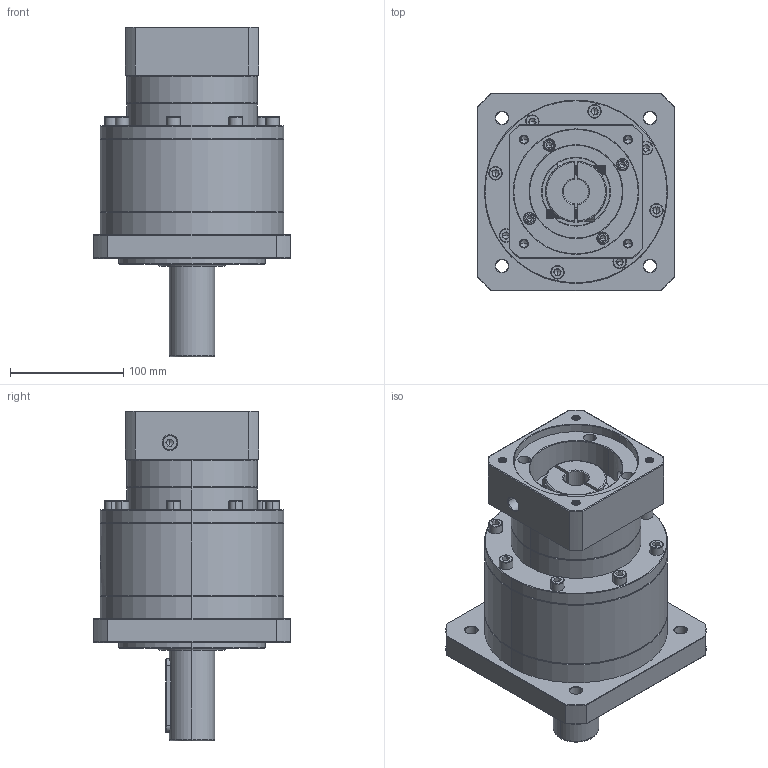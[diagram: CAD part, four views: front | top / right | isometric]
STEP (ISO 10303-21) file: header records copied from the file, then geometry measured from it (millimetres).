
FILE_DESCRIPTION (( 'STEP AP214' ), '1' );
FILE_NAME ('ZF160A-D40-L2-P2-22-110-130-M8.step', '2023-09-03T07:54:03', ( '' ), ( '' ), 'SwSTEP 2.0', 'SolidWorks 2016', '' );
FILE_SCHEMA (( 'AUTOMOTIVE_DESIGN' ));
Length unit declared in the file: millimetre
Products named in the file (1): ZF160A-D40-L2-P2-22-110-130-M8
Bounding box: 175 x 175 x 291.7 mm (x, y, z)
Volume: 3573526.1 mm3; surface area: 266050.8 mm2
Topology: 6 solids, 6 shells, 2442 faces, 6463 edges, 4148 vertices
Faces by surface type: plane 1119, cylinder 487, bspline 425, cone 373, torus 38
Entity records: 132439 total; most frequent: CARTESIAN_POINT 50289, ORIENTED_EDGE 12818, DIRECTION 9757, EDGE_CURVE 6409, VERTEX_POINT 4148, VECTOR 3391, LINE 3391, AXIS2_PLACEMENT_3D 3183
